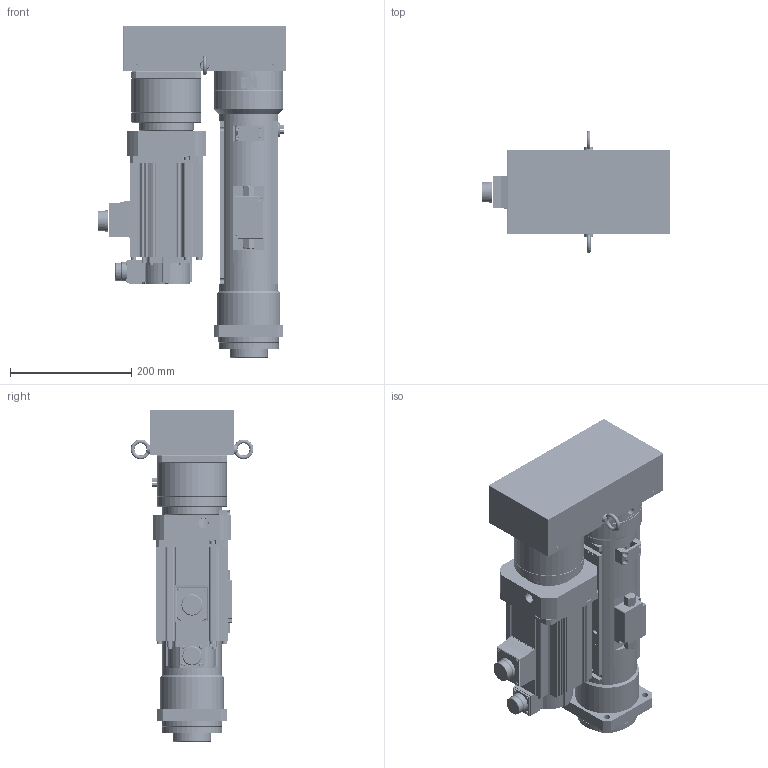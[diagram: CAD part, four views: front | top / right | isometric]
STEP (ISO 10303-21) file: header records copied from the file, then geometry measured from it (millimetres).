
FILE_DESCRIPTION( ('This file contains a STEP AP42 implementation' ,'as created by ZW3D STEP Interface translator.') ,'2;1' );
FILE_NAME( 'OACIS-DC-P025-P030-200-200-A6V200_V20.51.stp' ,'26 416.151525', (''), ('ZWCAD Software Co.'), 'Version 1.0', 'ZW3D to STEP translator', '' );
FILE_SCHEMA(('AUTOMOTIVE_DESIGN { 1 0 10303 214 1 1 1 1 }'));
Length unit declared in the file: millimetre
Products named in the file (1): 0
Bounding box: 311 x 202.6 x 548 mm (x, y, z)
Volume: 6161161.4 mm3; surface area: 1412758.3 mm2
Topology: 50 solids, 55 shells, 3158 faces, 8097 edges, 5295 vertices
Faces by surface type: cylinder 1481, plane 1214, cone 332, torus 100, sphere 21, bspline 10
Full cylindrical faces by diameter (mm): 1.6 x8, 2.459 x5, 2.75 x4, 3.2 x5, 3.242 x10, 3.3 x76, 4 x8, 4.134 x14, 4.2 x4, 4.3 x24, 4.5 x4, 5 x36, 5.5 x4, 5.6 x5, 6.6 x14, 6.647 x4, 6.8 x42, 7 x12, 8 x32, 8.4 x8, 8.5 x35, 9 x8, 9.5 x4, 10 x8, 10.106 x1, 11 x12, 12 x1, 15 x8, 15.5 x2, 16.5 x2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
Entity records: 104407 total; most frequent: CARTESIAN_POINT 20046, DIRECTION 18059, ORIENTED_EDGE 15976, EDGE_CURVE 7996, AXIS2_PLACEMENT_3D 7152, VERTEX_POINT 5230, CIRCLE 3980, EDGE_LOOP 3767
